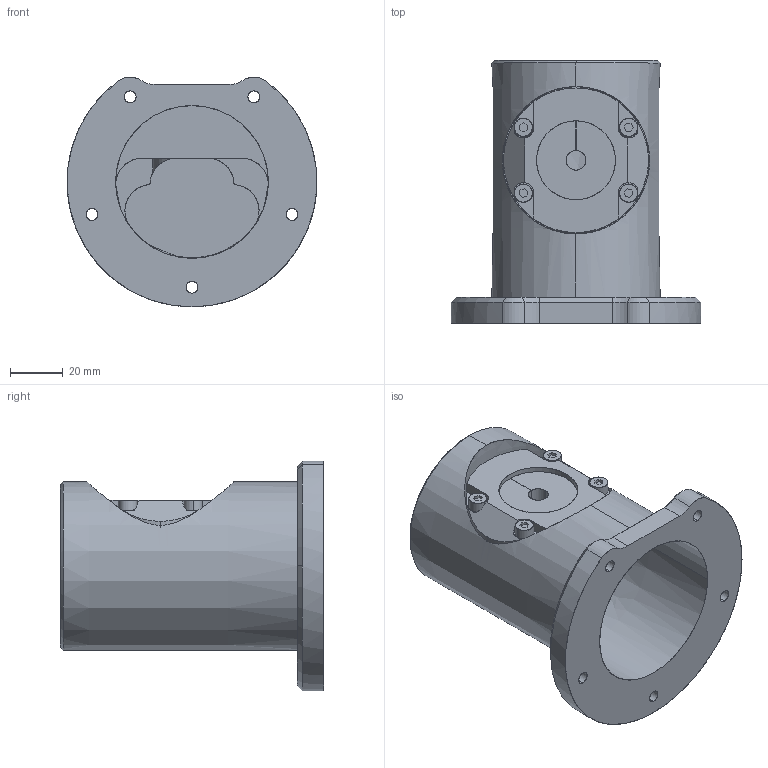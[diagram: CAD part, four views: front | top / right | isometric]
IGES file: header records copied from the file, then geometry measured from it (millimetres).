
Start section: SolidWorks IGES file using analytic representation for surfaces
Global section: file name: C:\Users\gus\Desktop\Delete Me March\ld3 ip67 PDD\LDB3-03-58-R0.IGS; native system: SolidWorks 2009; preprocessor: SolidWorks 2009; author: gus; date: 090330.084718; units: millimetre
Bounding box: 95 x 100 x 87.36 mm (x, y, z)
Surface area: 53885.9 mm2 (no closed solid volume)
Topology: 0 solids, 0 shells, 186 faces, 3616 edges, 3602 vertices
Faces by surface type: revolution 110, bspline 76
